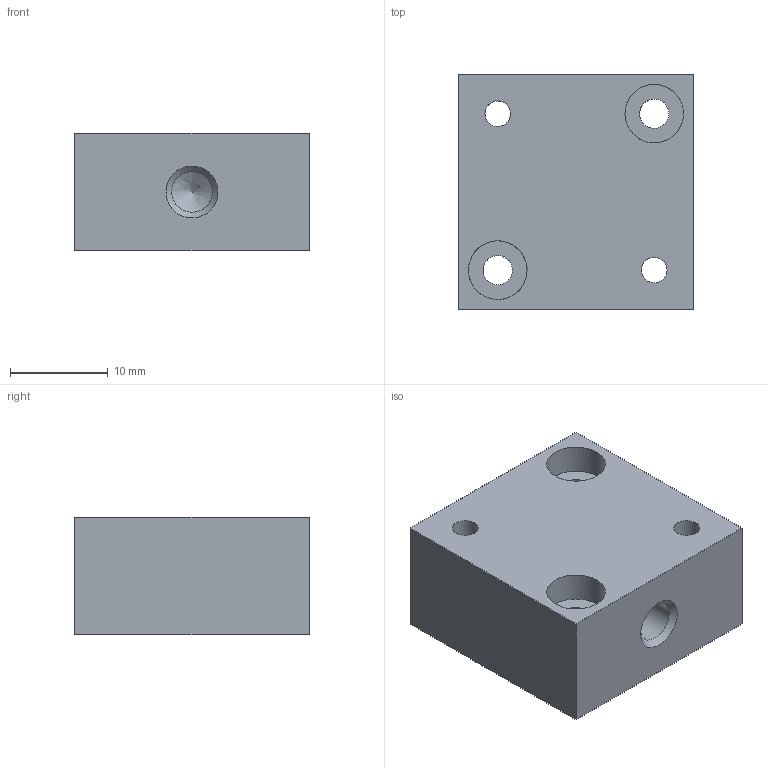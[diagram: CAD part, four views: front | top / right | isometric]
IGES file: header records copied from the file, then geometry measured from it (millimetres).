
Global section: file name: 305_00_00; native system: Autodesk Inventor 2014; preprocessor: unknown; organization: Pneumax S.p.A.; date: 20161003.120531; units: millimetre
Bounding box: 24 x 24 x 12 mm (x, y, z)
Volume: 6200.8 mm3; surface area: 2991.4 mm2
Topology: 1 solids, 1 shells, 20 faces, 52 edges, 36 vertices
Faces by surface type: bspline 20
